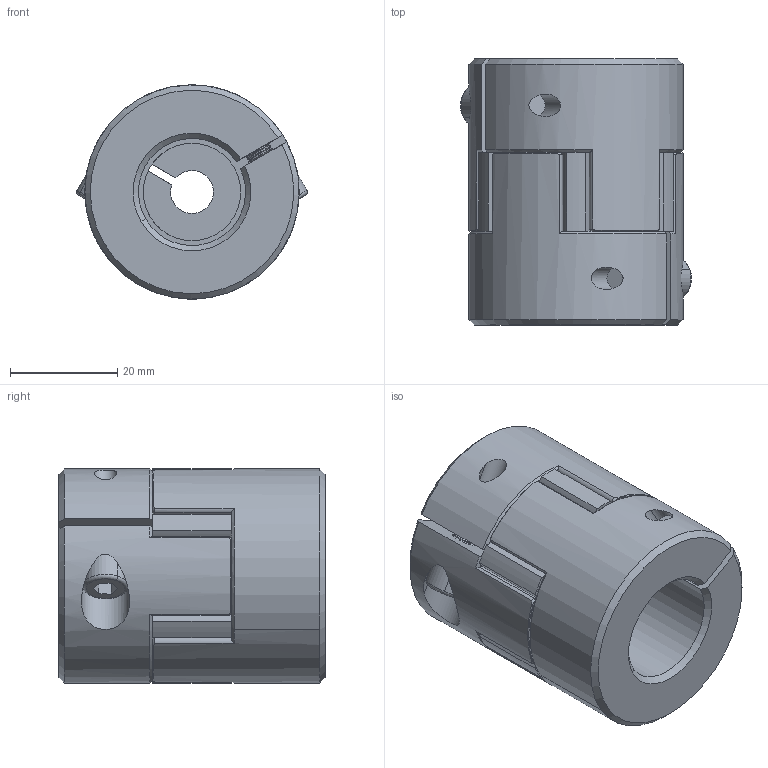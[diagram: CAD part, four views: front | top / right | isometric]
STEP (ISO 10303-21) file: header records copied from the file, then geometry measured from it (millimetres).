
FILE_DESCRIPTION (( 'STEP AP203' ), '1' );
FILE_NAME ('LF-B-D40L50-8-20.STEP', '2021-10-25T02:37:03', ( '' ), ( '' ), 'SwSTEP 2.0', 'SolidWorks 2018', '' );
FILE_SCHEMA (( 'CONFIG_CONTROL_DESIGN' ));
Length unit declared in the file: millimetre
Products named in the file (1): LF-B-D40L50-8-20
Bounding box: 43.11 x 49.7 x 40 mm (x, y, z)
Volume: 50554.6 mm3; surface area: 14644.5 mm2
Topology: 1 solids, 7 shells, 470 faces, 1113 edges, 660 vertices
Faces by surface type: cone 170, cylinder 169, plane 127, torus 4
Entity records: 13932 total; most frequent: CARTESIAN_POINT 2888, DIRECTION 2501, ORIENTED_EDGE 2218, EDGE_CURVE 1109, AXIS2_PLACEMENT_3D 1037, VERTEX_POINT 660, CIRCLE 566, EDGE_LOOP 487
